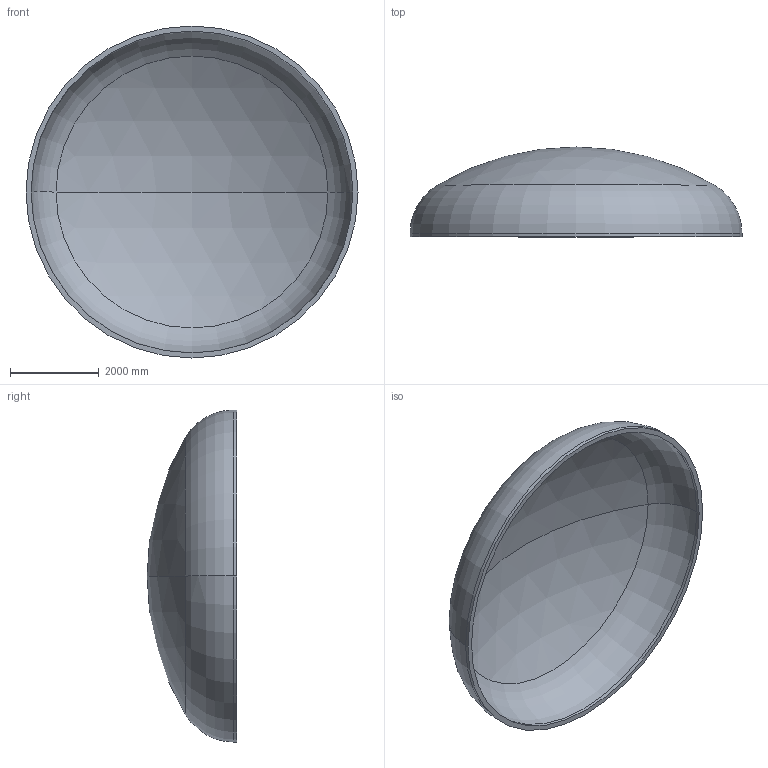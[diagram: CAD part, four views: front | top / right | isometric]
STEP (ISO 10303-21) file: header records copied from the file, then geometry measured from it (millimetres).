
FILE_DESCRIPTION (( 'STEP AP203' ), '1' );
FILE_NAME ('DIN 28013 Korbbogenform_-_Boden DIN 28013 - 7500 x 75 - I - s=114.step', '2016-07-04T10:57:39', ( '' ), ( '' ), 'SwSTEP 2.0', 'SolidWorks 2013', '' );
FILE_SCHEMA (( 'CONFIG_CONTROL_DESIGN' ));
Length unit declared in the file: millimetre
Products named in the file (1): DIN 28013 Korbbogenform_-_Boden DIN 28013 - 7500 x 75 - I - s=114
Bounding box: 7500 x 2027.43 x 7500 mm (x, y, z)
Volume: 7035081486.8 mm3; surface area: 126094887.3 mm2
Topology: 1 solids, 1 shells, 13 faces, 24 edges, 14 vertices
Faces by surface type: torus 4, cylinder 4, sphere 4, plane 1
Entity records: 407 total; most frequent: DIRECTION 72, CARTESIAN_POINT 52, ORIENTED_EDGE 48, AXIS2_PLACEMENT_3D 34, EDGE_CURVE 24, CIRCLE 20, VERTEX_POINT 14, EDGE_LOOP 14
